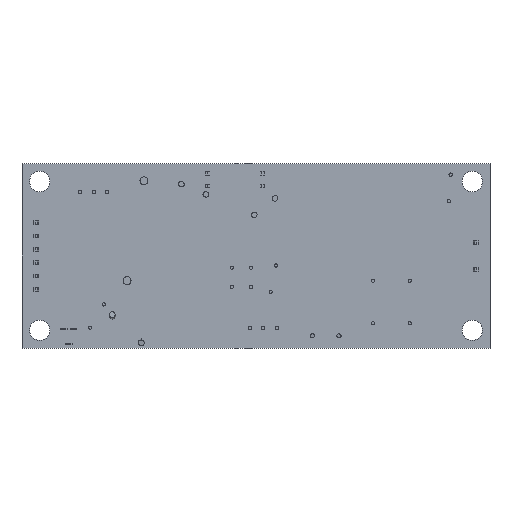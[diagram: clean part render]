
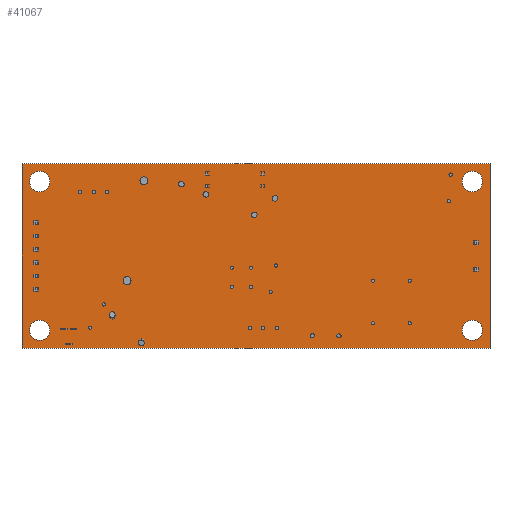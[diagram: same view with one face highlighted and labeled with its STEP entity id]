
A CAD part, front view. The second image highlights one B-rep face of the part: STEP entity #41067.
In plain terms, the highlighted planar face has unit normal (0, -1, 0).
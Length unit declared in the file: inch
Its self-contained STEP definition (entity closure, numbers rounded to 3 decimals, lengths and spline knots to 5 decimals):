
#27 = LINE ( 'NONE', #10988, #16421 ) ;
#42 = EDGE_LOOP ( 'NONE', ( #19644, #71235 ) ) ;
#216 = FACE_BOUND ( 'NONE', #47439, .T. ) ;
#234 = VERTEX_POINT ( 'NONE', #63958 ) ;
#304 = EDGE_CURVE ( 'NONE', #35705, #60514, #12637, .T. ) ;
#818 = DIRECTION ( 'NONE',  ( -1., 0., 0. ) ) ;
#6973 = AXIS2_PLACEMENT_3D ( 'NONE', #14695, #57810, #20935 ) ;
#7162 = EDGE_LOOP ( 'NONE', ( #79716, #75466 ) ) ;
#7242 = DIRECTION ( 'NONE',  ( 0., 1., 0. ) ) ;
#7696 = EDGE_CURVE ( 'NONE', #60514, #35705, #28802, .T. ) ;
#7724 = CARTESIAN_POINT ( 'NONE',  ( -1.73031, 0., 0.6811 ) ) ;
#8879 = EDGE_CURVE ( 'NONE', #234, #69908, #8982, .T. ) ;
#8982 = CIRCLE ( 'NONE', #64368, 0.075 ) ;
#9949 = CARTESIAN_POINT ( 'NONE',  ( 1.73031, 0., -0.6811 ) ) ;
#10047 = EDGE_CURVE ( 'NONE', #71494, #75106, #55387, .T. ) ;
#10369 = CIRCLE ( 'NONE', #75034, 0.075 ) ;
#10939 = CARTESIAN_POINT ( 'NONE',  ( -1.6, 0., -0.54921 ) ) ;
#10988 = CARTESIAN_POINT ( 'NONE',  ( 1.73031, 0., -0.6811 ) ) ;
#11181 = CARTESIAN_POINT ( 'NONE',  ( -1.73031, 0., -0.6811 ) ) ;
#12637 = CIRCLE ( 'NONE', #73522, 0.075 ) ;
#12761 = LINE ( 'NONE', #42124, #43651 ) ;
#13584 = ORIENTED_EDGE ( 'NONE', *, *, #70887, .T. ) ;
#14695 = CARTESIAN_POINT ( 'NONE',  ( -1.6, 0., -0.54921 ) ) ;
#14699 = FACE_BOUND ( 'NONE', #71619, .T. ) ;
#15487 = DIRECTION ( 'NONE',  ( 0., 1., 0. ) ) ;
#15767 = VECTOR ( 'NONE', #818, 39.37008 ) ;
#15853 = CARTESIAN_POINT ( 'NONE',  ( -1.6, 0., 0.62579 ) ) ;
#16421 = VECTOR ( 'NONE', #53862, 39.37008 ) ;
#16609 = FACE_OUTER_BOUND ( 'NONE', #70234, .T. ) ;
#17137 = DIRECTION ( 'NONE',  ( 0., 0., 1. ) ) ;
#18271 = CARTESIAN_POINT ( 'NONE',  ( -1.6, 0., 0.47579 ) ) ;
#19106 = CARTESIAN_POINT ( 'NONE',  ( 1.6, 0., 0.55079 ) ) ;
#19644 = ORIENTED_EDGE ( 'NONE', *, *, #7696, .T. ) ;
#20060 = VERTEX_POINT ( 'NONE', #40891 ) ;
#20231 = ORIENTED_EDGE ( 'NONE', *, *, #10047, .T. ) ;
#20935 = DIRECTION ( 'NONE',  ( 0., 0., 1. ) ) ;
#21299 = CIRCLE ( 'NONE', #79795, 0.075 ) ;
#23248 = CARTESIAN_POINT ( 'NONE',  ( 1.6, 0., -0.54921 ) ) ;
#23651 = DIRECTION ( 'NONE',  ( 0., 1., 0. ) ) ;
#25029 = AXIS2_PLACEMENT_3D ( 'NONE', #44226, #7242, #50399 ) ;
#25328 = DIRECTION ( 'NONE',  ( 0., 0., 1. ) ) ;
#28479 = VECTOR ( 'NONE', #59934, 39.37008 ) ;
#28802 = CIRCLE ( 'NONE', #60589, 0.075 ) ;
#28961 = CARTESIAN_POINT ( 'NONE',  ( 1.73031, 0., 0.6811 ) ) ;
#29489 = DIRECTION ( 'NONE',  ( 0., 0., 1. ) ) ;
#29636 = DIRECTION ( 'NONE',  ( 0., 1., 0. ) ) ;
#29975 = ORIENTED_EDGE ( 'NONE', *, *, #8879, .T. ) ;
#30589 = CARTESIAN_POINT ( 'NONE',  ( -1.6, 0., -0.47421 ) ) ;
#30714 = ORIENTED_EDGE ( 'NONE', *, *, #42427, .T. ) ;
#30917 = CARTESIAN_POINT ( 'NONE',  ( 1.73031, 0., -0.6811 ) ) ;
#31144 = FACE_BOUND ( 'NONE', #7162, .T. ) ;
#34201 = AXIS2_PLACEMENT_3D ( 'NONE', #30917, #73930, #37093 ) ;
#34618 = CIRCLE ( 'NONE', #6973, 0.075 ) ;
#35705 = VERTEX_POINT ( 'NONE', #18271 ) ;
#36971 = CARTESIAN_POINT ( 'NONE',  ( 1.6, 0., 0.47579 ) ) ;
#37093 = DIRECTION ( 'NONE',  ( 0., 0., -1. ) ) ;
#40891 = CARTESIAN_POINT ( 'NONE',  ( -1.6, 0., -0.62421 ) ) ;
#41067 = ADVANCED_FACE ( 'NONE', ( #16609, #31144, #216, #14699, #78268 ), #43022, .T. ) ;
#42124 = CARTESIAN_POINT ( 'NONE',  ( -1.73031, 0., -0.6811 ) ) ;
#42427 = EDGE_CURVE ( 'NONE', #75106, #71494, #44393, .T. ) ;
#43022 = PLANE ( 'NONE',  #34201 ) ;
#43651 = VECTOR ( 'NONE', #48312, 39.37008 ) ;
#43983 = CARTESIAN_POINT ( 'NONE',  ( 1.73031, 0., 0.6811 ) ) ;
#44226 = CARTESIAN_POINT ( 'NONE',  ( 1.6, 0., -0.54921 ) ) ;
#44393 = CIRCLE ( 'NONE', #25029, 0.075 ) ;
#44408 = ORIENTED_EDGE ( 'NONE', *, *, #71528, .T. ) ;
#44914 = LINE ( 'NONE', #78207, #28479 ) ;
#47439 = EDGE_LOOP ( 'NONE', ( #20231, #30714 ) ) ;
#48098 = EDGE_CURVE ( 'NONE', #58066, #20060, #10369, .T. ) ;
#48312 = DIRECTION ( 'NONE',  ( 0., 0., -1. ) ) ;
#50399 = DIRECTION ( 'NONE',  ( 0., 0., 1. ) ) ;
#51426 = CARTESIAN_POINT ( 'NONE',  ( 1.6, 0., -0.62421 ) ) ;
#52432 = CARTESIAN_POINT ( 'NONE',  ( -1.6, 0., 0.55079 ) ) ;
#53862 = DIRECTION ( 'NONE',  ( 0., 0., 1. ) ) ;
#54072 = DIRECTION ( 'NONE',  ( 0., 1., 0. ) ) ;
#55387 = CIRCLE ( 'NONE', #68592, 0.075 ) ;
#57810 = DIRECTION ( 'NONE',  ( 0., 1., 0. ) ) ;
#58066 = VERTEX_POINT ( 'NONE', #30589 ) ;
#58614 = DIRECTION ( 'NONE',  ( 0., 0., 1. ) ) ;
#59118 = EDGE_CURVE ( 'NONE', #69908, #234, #21299, .T. ) ;
#59934 = DIRECTION ( 'NONE',  ( 1., 0., 0. ) ) ;
#60514 = VERTEX_POINT ( 'NONE', #15853 ) ;
#60527 = CARTESIAN_POINT ( 'NONE',  ( 1.6, 0., 0.55079 ) ) ;
#60589 = AXIS2_PLACEMENT_3D ( 'NONE', #52432, #15487, #58614 ) ;
#62210 = DIRECTION ( 'NONE',  ( 0., 1., 0. ) ) ;
#63958 = CARTESIAN_POINT ( 'NONE',  ( 1.6, 0., 0.62579 ) ) ;
#64368 = AXIS2_PLACEMENT_3D ( 'NONE', #19106, #62210, #25328 ) ;
#65598 = EDGE_CURVE ( 'NONE', #66625, #72415, #12761, .T. ) ;
#66148 = VERTEX_POINT ( 'NONE', #9949 ) ;
#66312 = DIRECTION ( 'NONE',  ( 0., 1., 0. ) ) ;
#66455 = CARTESIAN_POINT ( 'NONE',  ( -1.6, 0., 0.55079 ) ) ;
#66625 = VERTEX_POINT ( 'NONE', #7724 ) ;
#66704 = DIRECTION ( 'NONE',  ( 0., 0., 1. ) ) ;
#67180 = VERTEX_POINT ( 'NONE', #28961 ) ;
#68592 = AXIS2_PLACEMENT_3D ( 'NONE', #23248, #66312, #29489 ) ;
#69908 = VERTEX_POINT ( 'NONE', #36971 ) ;
#70234 = EDGE_LOOP ( 'NONE', ( #77669, #13584, #74699, #44408 ) ) ;
#70887 = EDGE_CURVE ( 'NONE', #72415, #66148, #44914, .T. ) ;
#71235 = ORIENTED_EDGE ( 'NONE', *, *, #304, .T. ) ;
#71494 = VERTEX_POINT ( 'NONE', #74338 ) ;
#71528 = EDGE_CURVE ( 'NONE', #67180, #66625, #79392, .T. ) ;
#71619 = EDGE_LOOP ( 'NONE', ( #29975, #73009 ) ) ;
#72415 = VERTEX_POINT ( 'NONE', #11181 ) ;
#72637 = DIRECTION ( 'NONE',  ( 0., 0., 1. ) ) ;
#73009 = ORIENTED_EDGE ( 'NONE', *, *, #59118, .T. ) ;
#73522 = AXIS2_PLACEMENT_3D ( 'NONE', #66455, #29636, #72637 ) ;
#73930 = DIRECTION ( 'NONE',  ( 0., -1., 0. ) ) ;
#74338 = CARTESIAN_POINT ( 'NONE',  ( 1.6, 0., -0.47421 ) ) ;
#74699 = ORIENTED_EDGE ( 'NONE', *, *, #77450, .T. ) ;
#75034 = AXIS2_PLACEMENT_3D ( 'NONE', #10939, #54072, #17137 ) ;
#75106 = VERTEX_POINT ( 'NONE', #51426 ) ;
#75466 = ORIENTED_EDGE ( 'NONE', *, *, #77851, .T. ) ;
#77450 = EDGE_CURVE ( 'NONE', #66148, #67180, #27, .T. ) ;
#77669 = ORIENTED_EDGE ( 'NONE', *, *, #65598, .T. ) ;
#77851 = EDGE_CURVE ( 'NONE', #20060, #58066, #34618, .T. ) ;
#78207 = CARTESIAN_POINT ( 'NONE',  ( 1.73031, 0., -0.6811 ) ) ;
#78268 = FACE_BOUND ( 'NONE', #42, .T. ) ;
#79392 = LINE ( 'NONE', #43983, #15767 ) ;
#79716 = ORIENTED_EDGE ( 'NONE', *, *, #48098, .T. ) ;
#79795 = AXIS2_PLACEMENT_3D ( 'NONE', #60527, #23651, #66704 ) ;
